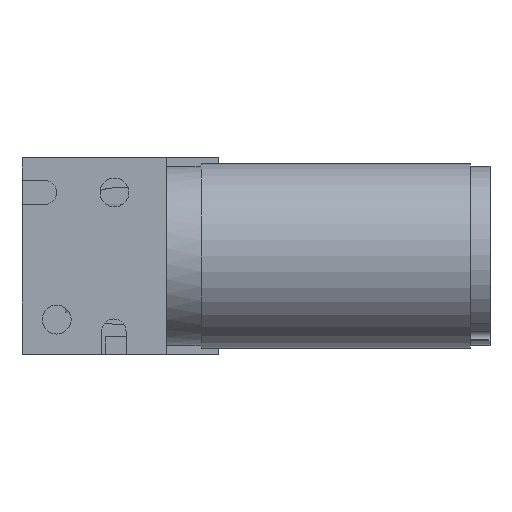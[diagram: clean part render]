
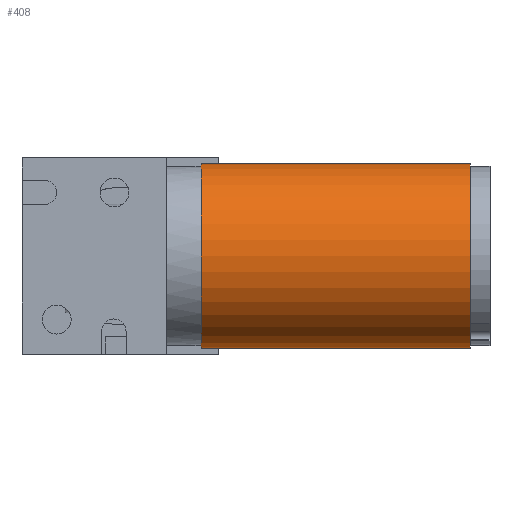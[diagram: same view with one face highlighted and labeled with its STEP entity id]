
A CAD part, front view. The second image highlights one B-rep face of the part: STEP entity #408.
In plain terms, the highlighted cylindrical face has radius 8 mm (diameter 16 mm), a full revolution.
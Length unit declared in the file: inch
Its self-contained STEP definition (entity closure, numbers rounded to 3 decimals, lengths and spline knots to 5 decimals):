
#314 = ORIENTED_EDGE ( 'NONE', *, *, #4720, .F. ) ;
#408 = ADVANCED_FACE ( 'NONE', ( #2603, #3575 ), #4464, .T. ) ;
#421 = CARTESIAN_POINT ( 'NONE',  ( -0.03937, 0.33465, 0. ) ) ;
#892 = ORIENTED_EDGE ( 'NONE', *, *, #3136, .T. ) ;
#1303 = CIRCLE ( 'NONE', #4468, 0.31496 ) ;
#1319 = CARTESIAN_POINT ( 'NONE',  ( 0.11811, 0.33465, 0. ) ) ;
#1683 = CARTESIAN_POINT ( 'NONE',  ( 1.03543, 0.60741, -0.15748 ) ) ;
#1700 = DIRECTION ( 'NONE',  ( 0., 0.866, -0.5 ) ) ;
#1763 = DIRECTION ( 'NONE',  ( -1., 0., 0. ) ) ;
#1906 = CIRCLE ( 'NONE', #2067, 0.31496 ) ;
#2067 = AXIS2_PLACEMENT_3D ( 'NONE', #1319, #3949, #1700 ) ;
#2603 = FACE_OUTER_BOUND ( 'NONE', #4476, .T. ) ;
#2622 = AXIS2_PLACEMENT_3D ( 'NONE', #421, #3052, #3798 ) ;
#2715 = VERTEX_POINT ( 'NONE', #1683 ) ;
#3052 = DIRECTION ( 'NONE',  ( -1., 0., 0. ) ) ;
#3136 = EDGE_CURVE ( 'NONE', #2715, #2715, #1303, .T. ) ;
#3316 = EDGE_LOOP ( 'NONE', ( #892 ) ) ;
#3338 = VERTEX_POINT ( 'NONE', #4310 ) ;
#3575 = FACE_OUTER_BOUND ( 'NONE', #3316, .T. ) ;
#3798 = DIRECTION ( 'NONE',  ( 0., 0.866, -0.5 ) ) ;
#3949 = DIRECTION ( 'NONE',  ( -1., 0., 0. ) ) ;
#4005 = CARTESIAN_POINT ( 'NONE',  ( 1.03543, 0.33465, 0. ) ) ;
#4310 = CARTESIAN_POINT ( 'NONE',  ( 0.11811, 0.60741, -0.15748 ) ) ;
#4378 = DIRECTION ( 'NONE',  ( 0., 0.866, -0.5 ) ) ;
#4464 = CYLINDRICAL_SURFACE ( 'NONE', #2622, 0.31496 ) ;
#4468 = AXIS2_PLACEMENT_3D ( 'NONE', #4005, #1763, #4378 ) ;
#4476 = EDGE_LOOP ( 'NONE', ( #314 ) ) ;
#4720 = EDGE_CURVE ( 'NONE', #3338, #3338, #1906, .T. ) ;
